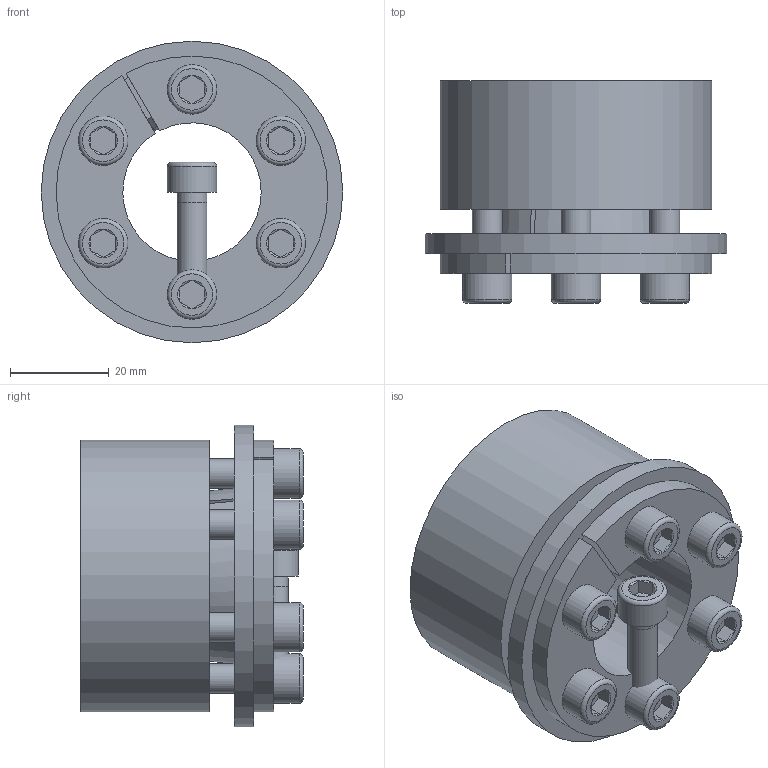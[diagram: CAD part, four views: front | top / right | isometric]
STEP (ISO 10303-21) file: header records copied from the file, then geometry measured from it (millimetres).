
FILE_DESCRIPTION( ( 'Unknown' ), '1' );
FILE_NAME( 'C:/Dokumente und Einstellungen/Sven/Desktop/homepage/cad - homepage/KBS71/KBS 71 - 28 x 55.stp', 'Unknown', ( 'Unknown' ), ( 'Unknown' ), 'XStep 1.0', 'Unknown', ' ' );
FILE_SCHEMA( ( 'automotive_design' ) );
Length unit declared in the file: millimetre
Products named in the file (3): Assem1; KBS 71 - 28 x 55; ISO EN DIN 4762 M6x25
Bounding box: 61 x 45 x 61 mm (x, y, z)
Volume: 121991.8 mm3; surface area: 49071.2 mm2
Topology: 9 solids, 9 shells, 247 faces, 545 edges, 328 vertices
Faces by surface type: plane 116, cylinder 60, cone 57, torus 14
Full cylindrical faces by diameter (mm): 5 x7, 6 x38, 10 x7, 61 x2
Entity records: 2071 total; most frequent: CARTESIAN_POINT 362, DIRECTION 319, ORIENTED_EDGE 260, AXIS2_PLACEMENT_3D 135, EDGE_CURVE 130, EDGE_LOOP 106, VERTEX_POINT 90, FACE_OUTER_BOUND 80
